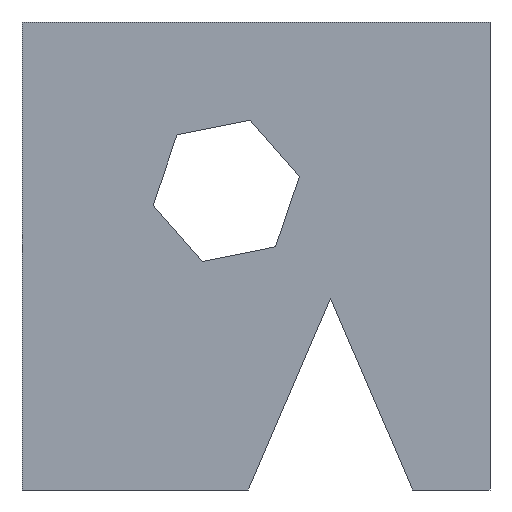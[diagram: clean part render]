
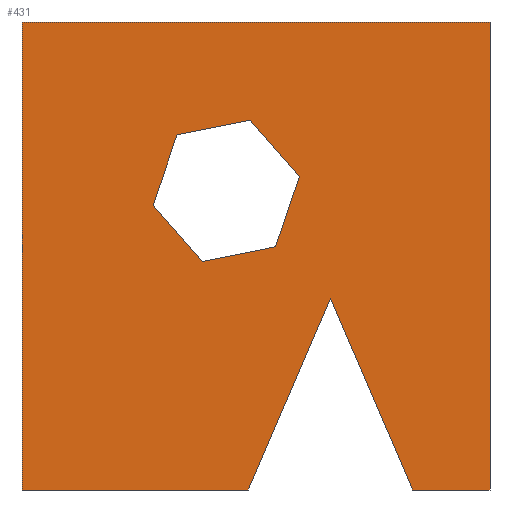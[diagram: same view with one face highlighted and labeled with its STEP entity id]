
A CAD part, left-side view. The second image highlights one B-rep face of the part: STEP entity #431.
In plain terms, the highlighted planar face has unit normal (-1, 0, 0).
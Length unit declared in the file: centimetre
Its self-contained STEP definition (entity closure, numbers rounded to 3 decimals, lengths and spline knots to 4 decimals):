
#1 = LINE ( 'NONE', #372, #478 ) ;
#4 = LINE ( 'NONE', #331, #800 ) ;
#13 = CARTESIAN_POINT ( 'NONE',  ( 0., 340.8639, 408.8576 ) ) ;
#18 = VERTEX_POINT ( 'NONE', #708 ) ;
#28 = DIRECTION ( 'NONE',  ( 1., 0., 0. ) ) ;
#42 = VECTOR ( 'NONE', #335, 100. ) ;
#45 = VERTEX_POINT ( 'NONE', #716 ) ;
#54 = CARTESIAN_POINT ( 'NONE',  ( 0., 668.7107, 759.1075 ) ) ;
#58 = DIRECTION ( 'NONE',  ( 0., 0.395, -0.919 ) ) ;
#64 = CARTESIAN_POINT ( 'NONE',  ( 0., 719.7609, 608.0885 ) ) ;
#67 = DIRECTION ( 'NONE',  ( 0., 0.32, -0.947 ) ) ;
#75 = VECTOR ( 'NONE', #58, 100. ) ;
#93 = CARTESIAN_POINT ( 'NONE',  ( 0., 0., 1000. ) ) ;
#94 = CARTESIAN_POINT ( 'NONE',  ( 0., 516.5054, 0. ) ) ;
#108 = CARTESIAN_POINT ( 'NONE',  ( 0., 407.1382, 670.686 ) ) ;
#117 = VECTOR ( 'NONE', #217, 100. ) ;
#118 = DIRECTION ( 'NONE',  ( 0., -0.981, 0.196 ) ) ;
#120 = EDGE_CURVE ( 'NONE', #265, #144, #610, .T. ) ;
#121 = LINE ( 'NONE', #362, #370 ) ;
#138 = ORIENTED_EDGE ( 'NONE', *, *, #570, .F. ) ;
#144 = VERTEX_POINT ( 'NONE', #93 ) ;
#158 = EDGE_LOOP ( 'NONE', ( #262, #337, #356, #325, #513, #212 ) ) ;
#170 = CARTESIAN_POINT ( 'NONE',  ( 0., 340.8639, 408.8576 ) ) ;
#182 = LINE ( 'NONE', #170, #75 ) ;
#200 = FACE_BOUND ( 'NONE', #158, .T. ) ;
#205 = EDGE_CURVE ( 'NONE', #378, #518, #617, .T. ) ;
#208 = CARTESIAN_POINT ( 'NONE',  ( 0., 1000., 0. ) ) ;
#211 = EDGE_CURVE ( 'NONE', #18, #267, #681, .T. ) ;
#212 = ORIENTED_EDGE ( 'NONE', *, *, #424, .T. ) ;
#214 = CARTESIAN_POINT ( 'NONE',  ( 0., 0., 0. ) ) ;
#216 = VERTEX_POINT ( 'NONE', #684 ) ;
#217 = DIRECTION ( 'NONE',  ( 0., -1., 0. ) ) ;
#221 = EDGE_CURVE ( 'NONE', #378, #387, #121, .T. ) ;
#228 = VERTEX_POINT ( 'NONE', #687 ) ;
#247 = CARTESIAN_POINT ( 'NONE',  ( 0., 1000., 1000. ) ) ;
#262 = ORIENTED_EDGE ( 'NONE', *, *, #804, .T. ) ;
#265 = VERTEX_POINT ( 'NONE', #549 ) ;
#267 = VERTEX_POINT ( 'NONE', #552 ) ;
#269 = VERTEX_POINT ( 'NONE', #305 ) ;
#284 = CARTESIAN_POINT ( 'NONE',  ( 0., 1000., 1000. ) ) ;
#286 = VECTOR ( 'NONE', #67, 100. ) ;
#289 = VECTOR ( 'NONE', #807, 100. ) ;
#290 = ORIENTED_EDGE ( 'NONE', *, *, #636, .T. ) ;
#300 = DIRECTION ( 'NONE',  ( 0., -0.32, 0.947 ) ) ;
#304 = DIRECTION ( 'NONE',  ( 0., 0., -1. ) ) ;
#305 = CARTESIAN_POINT ( 'NONE',  ( 0., 458.1884, 519.667 ) ) ;
#308 = DIRECTION ( 'NONE',  ( 0., 0.395, 0.919 ) ) ;
#315 = EDGE_CURVE ( 'NONE', #216, #468, #583, .T. ) ;
#319 = LINE ( 'NONE', #764, #712 ) ;
#325 = ORIENTED_EDGE ( 'NONE', *, *, #576, .T. ) ;
#331 = CARTESIAN_POINT ( 'NONE',  ( 0., 614.4997, 488.3683 ) ) ;
#335 = DIRECTION ( 'NONE',  ( 0., 0.981, -0.196 ) ) ;
#337 = ORIENTED_EDGE ( 'NONE', *, *, #467, .T. ) ;
#344 = AXIS2_PLACEMENT_3D ( 'NONE', #396, #28, #659 ) ;
#346 = ORIENTED_EDGE ( 'NONE', *, *, #205, .T. ) ;
#356 = ORIENTED_EDGE ( 'NONE', *, *, #361, .T. ) ;
#361 = EDGE_CURVE ( 'NONE', #228, #45, #4, .T. ) ;
#362 = CARTESIAN_POINT ( 'NONE',  ( 0., 165.2224, 0. ) ) ;
#370 = VECTOR ( 'NONE', #308, 100. ) ;
#372 = CARTESIAN_POINT ( 'NONE',  ( 0., 0., 1000. ) ) ;
#375 = LINE ( 'NONE', #630, #286 ) ;
#378 = VERTEX_POINT ( 'NONE', #755 ) ;
#387 = VERTEX_POINT ( 'NONE', #13 ) ;
#393 = DIRECTION ( 'NONE',  ( 0., 0.66, 0.751 ) ) ;
#396 = CARTESIAN_POINT ( 'NONE',  ( 0., 1000., 1000. ) ) ;
#404 = ORIENTED_EDGE ( 'NONE', *, *, #221, .F. ) ;
#423 = CARTESIAN_POINT ( 'NONE',  ( 0., 1000., 0. ) ) ;
#424 = EDGE_CURVE ( 'NONE', #267, #474, #319, .T. ) ;
#425 = LINE ( 'NONE', #247, #629 ) ;
#431 = ADVANCED_FACE ( 'NONE', ( #200, #448 ), #706, .F. ) ;
#444 = DIRECTION ( 'NONE',  ( 0., -1., 0. ) ) ;
#448 = FACE_OUTER_BOUND ( 'NONE', #727, .T. ) ;
#451 = ORIENTED_EDGE ( 'NONE', *, *, #661, .F. ) ;
#467 = EDGE_CURVE ( 'NONE', #269, #228, #794, .T. ) ;
#468 = VERTEX_POINT ( 'NONE', #94 ) ;
#474 = VERTEX_POINT ( 'NONE', #108 ) ;
#478 = VECTOR ( 'NONE', #626, 100. ) ;
#513 = ORIENTED_EDGE ( 'NONE', *, *, #211, .T. ) ;
#518 = VERTEX_POINT ( 'NONE', #214 ) ;
#524 = ORIENTED_EDGE ( 'NONE', *, *, #120, .F. ) ;
#549 = CARTESIAN_POINT ( 'NONE',  ( 0., 1000., 1000. ) ) ;
#552 = CARTESIAN_POINT ( 'NONE',  ( 0., 512.3994, 790.4062 ) ) ;
#556 = VECTOR ( 'NONE', #118, 100. ) ;
#570 = EDGE_CURVE ( 'NONE', #144, #518, #1, .T. ) ;
#576 = EDGE_CURVE ( 'NONE', #45, #18, #679, .T. ) ;
#583 = LINE ( 'NONE', #208, #740 ) ;
#610 = LINE ( 'NONE', #284, #117 ) ;
#617 = LINE ( 'NONE', #423, #289 ) ;
#626 = DIRECTION ( 'NONE',  ( 0., 0., -1. ) ) ;
#629 = VECTOR ( 'NONE', #304, 100. ) ;
#630 = CARTESIAN_POINT ( 'NONE',  ( 0., 407.1382, 670.686 ) ) ;
#636 = EDGE_CURVE ( 'NONE', #265, #216, #425, .T. ) ;
#659 = DIRECTION ( 'NONE',  ( 0., 0., -1. ) ) ;
#661 = EDGE_CURVE ( 'NONE', #387, #468, #182, .T. ) ;
#671 = ORIENTED_EDGE ( 'NONE', *, *, #315, .T. ) ;
#679 = LINE ( 'NONE', #64, #754 ) ;
#681 = LINE ( 'NONE', #54, #556 ) ;
#684 = CARTESIAN_POINT ( 'NONE',  ( 0., 1000., 0. ) ) ;
#687 = CARTESIAN_POINT ( 'NONE',  ( 0., 614.4997, 488.3683 ) ) ;
#701 = DIRECTION ( 'NONE',  ( 0., -0.66, -0.751 ) ) ;
#706 = PLANE ( 'NONE',  #344 ) ;
#708 = CARTESIAN_POINT ( 'NONE',  ( 0., 668.7107, 759.1075 ) ) ;
#712 = VECTOR ( 'NONE', #701, 100. ) ;
#716 = CARTESIAN_POINT ( 'NONE',  ( 0., 719.7609, 608.0885 ) ) ;
#717 = CARTESIAN_POINT ( 'NONE',  ( 0., 458.1884, 519.667 ) ) ;
#727 = EDGE_LOOP ( 'NONE', ( #671, #451, #404, #346, #138, #524, #290 ) ) ;
#740 = VECTOR ( 'NONE', #444, 100. ) ;
#754 = VECTOR ( 'NONE', #300, 100. ) ;
#755 = CARTESIAN_POINT ( 'NONE',  ( 0., 165.2224, 0. ) ) ;
#764 = CARTESIAN_POINT ( 'NONE',  ( 0., 512.3994, 790.4062 ) ) ;
#794 = LINE ( 'NONE', #717, #42 ) ;
#800 = VECTOR ( 'NONE', #393, 100. ) ;
#804 = EDGE_CURVE ( 'NONE', #474, #269, #375, .T. ) ;
#807 = DIRECTION ( 'NONE',  ( 0., -1., 0. ) ) ;
